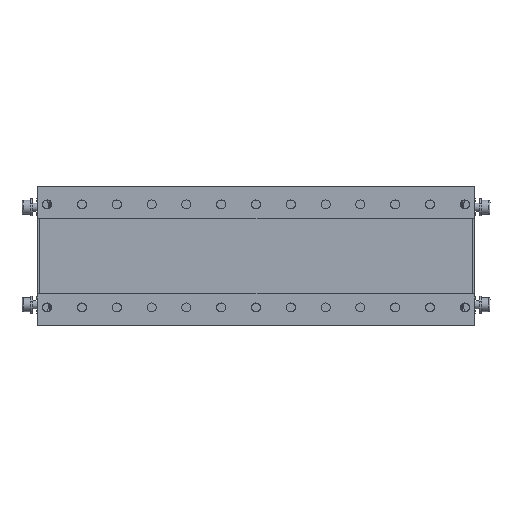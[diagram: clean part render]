
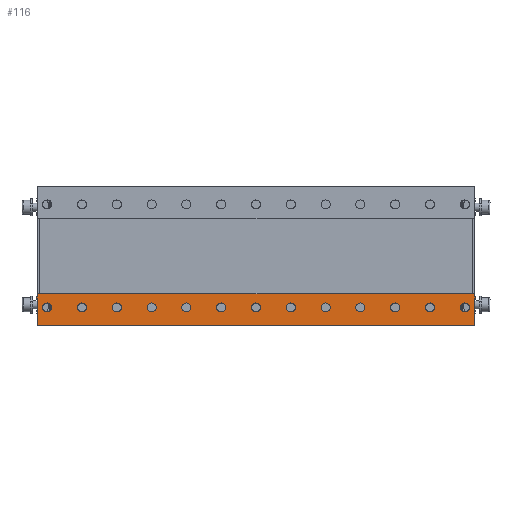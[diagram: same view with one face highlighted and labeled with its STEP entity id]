
A CAD part, top view. The second image highlights one B-rep face of the part: STEP entity #116.
In plain terms, the highlighted planar face has unit normal (0, 0, 1).
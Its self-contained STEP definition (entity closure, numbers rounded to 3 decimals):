
#87 = EDGE_CURVE('',#88,#88,#90,.T.);
#88 = VERTEX_POINT('',#89);
#89 = CARTESIAN_POINT('',(-121.75,-37.,30.));
#90 = CIRCLE('',#91,3.25);
#91 = AXIS2_PLACEMENT_3D('',#92,#93,#94);
#92 = CARTESIAN_POINT('',(-125.,-37.,30.));
#93 = DIRECTION('',(0.,0.,1.));
#94 = DIRECTION('',(1.,0.,-0.));
#116 = ADVANCED_FACE('',(#117,#167,#178,#189,#200,#211,#222,#233,#244,
    #255,#266,#277,#288,#291),#302,.F.);
#117 = FACE_BOUND('',#118,.F.);
#118 = EDGE_LOOP('',(#119,#129,#137,#145,#153,#161));
#119 = ORIENTED_EDGE('',*,*,#120,.F.);
#120 = EDGE_CURVE('',#121,#123,#125,.T.);
#121 = VERTEX_POINT('',#122);
#122 = CARTESIAN_POINT('',(157.,-50.,30.));
#123 = VERTEX_POINT('',#124);
#124 = CARTESIAN_POINT('',(157.,-28.,30.));
#125 = LINE('',#126,#127);
#126 = CARTESIAN_POINT('',(157.,-50.,30.));
#127 = VECTOR('',#128,1.);
#128 = DIRECTION('',(0.,1.,0.));
#129 = ORIENTED_EDGE('',*,*,#130,.T.);
#130 = EDGE_CURVE('',#121,#131,#133,.T.);
#131 = VERTEX_POINT('',#132);
#132 = CARTESIAN_POINT('',(-157.,-50.,30.));
#133 = LINE('',#134,#135);
#134 = CARTESIAN_POINT('',(0.,-50.,30.));
#135 = VECTOR('',#136,1.);
#136 = DIRECTION('',(-1.,0.,0.));
#137 = ORIENTED_EDGE('',*,*,#138,.F.);
#138 = EDGE_CURVE('',#139,#131,#141,.T.);
#139 = VERTEX_POINT('',#140);
#140 = CARTESIAN_POINT('',(-157.,-28.,30.));
#141 = LINE('',#142,#143);
#142 = CARTESIAN_POINT('',(-157.,-28.,30.));
#143 = VECTOR('',#144,1.);
#144 = DIRECTION('',(0.,-1.,0.));
#145 = ORIENTED_EDGE('',*,*,#146,.F.);
#146 = EDGE_CURVE('',#147,#139,#149,.T.);
#147 = VERTEX_POINT('',#148);
#148 = CARTESIAN_POINT('',(-156.,-27.,30.));
#149 = LINE('',#150,#151);
#150 = CARTESIAN_POINT('',(-157.,-28.,30.));
#151 = VECTOR('',#152,1.);
#152 = DIRECTION('',(-0.707,-0.707,-0.));
#153 = ORIENTED_EDGE('',*,*,#154,.F.);
#154 = EDGE_CURVE('',#155,#147,#157,.T.);
#155 = VERTEX_POINT('',#156);
#156 = CARTESIAN_POINT('',(156.,-27.,30.));
#157 = LINE('',#158,#159);
#158 = CARTESIAN_POINT('',(0.,-27.,30.));
#159 = VECTOR('',#160,1.);
#160 = DIRECTION('',(-1.,0.,0.));
#161 = ORIENTED_EDGE('',*,*,#162,.F.);
#162 = EDGE_CURVE('',#123,#155,#163,.T.);
#163 = LINE('',#164,#165);
#164 = CARTESIAN_POINT('',(156.,-27.,30.));
#165 = VECTOR('',#166,1.);
#166 = DIRECTION('',(-0.707,0.707,-0.));
#167 = FACE_BOUND('',#168,.F.);
#168 = EDGE_LOOP('',(#169));
#169 = ORIENTED_EDGE('',*,*,#170,.F.);
#170 = EDGE_CURVE('',#171,#171,#173,.T.);
#171 = VERTEX_POINT('',#172);
#172 = CARTESIAN_POINT('',(153.25,-37.,30.));
#173 = CIRCLE('',#174,3.25);
#174 = AXIS2_PLACEMENT_3D('',#175,#176,#177);
#175 = CARTESIAN_POINT('',(150.,-37.,30.));
#176 = DIRECTION('',(-0.,0.,-1.));
#177 = DIRECTION('',(1.,0.,-0.));
#178 = FACE_BOUND('',#179,.F.);
#179 = EDGE_LOOP('',(#180));
#180 = ORIENTED_EDGE('',*,*,#181,.F.);
#181 = EDGE_CURVE('',#182,#182,#184,.T.);
#182 = VERTEX_POINT('',#183);
#183 = CARTESIAN_POINT('',(128.25,-37.,30.));
#184 = CIRCLE('',#185,3.25);
#185 = AXIS2_PLACEMENT_3D('',#186,#187,#188);
#186 = CARTESIAN_POINT('',(125.,-37.,30.));
#187 = DIRECTION('',(0.,0.,-1.));
#188 = DIRECTION('',(1.,0.,0.));
#189 = FACE_BOUND('',#190,.F.);
#190 = EDGE_LOOP('',(#191));
#191 = ORIENTED_EDGE('',*,*,#192,.F.);
#192 = EDGE_CURVE('',#193,#193,#195,.T.);
#193 = VERTEX_POINT('',#194);
#194 = CARTESIAN_POINT('',(103.25,-37.,30.));
#195 = CIRCLE('',#196,3.25);
#196 = AXIS2_PLACEMENT_3D('',#197,#198,#199);
#197 = CARTESIAN_POINT('',(100.,-37.,30.));
#198 = DIRECTION('',(0.,0.,-1.));
#199 = DIRECTION('',(1.,0.,0.));
#200 = FACE_BOUND('',#201,.F.);
#201 = EDGE_LOOP('',(#202));
#202 = ORIENTED_EDGE('',*,*,#203,.F.);
#203 = EDGE_CURVE('',#204,#204,#206,.T.);
#204 = VERTEX_POINT('',#205);
#205 = CARTESIAN_POINT('',(78.25,-37.,30.));
#206 = CIRCLE('',#207,3.25);
#207 = AXIS2_PLACEMENT_3D('',#208,#209,#210);
#208 = CARTESIAN_POINT('',(75.,-37.,30.));
#209 = DIRECTION('',(0.,0.,-1.));
#210 = DIRECTION('',(1.,0.,0.));
#211 = FACE_BOUND('',#212,.F.);
#212 = EDGE_LOOP('',(#213));
#213 = ORIENTED_EDGE('',*,*,#214,.F.);
#214 = EDGE_CURVE('',#215,#215,#217,.T.);
#215 = VERTEX_POINT('',#216);
#216 = CARTESIAN_POINT('',(53.25,-37.,30.));
#217 = CIRCLE('',#218,3.25);
#218 = AXIS2_PLACEMENT_3D('',#219,#220,#221);
#219 = CARTESIAN_POINT('',(50.,-37.,30.));
#220 = DIRECTION('',(0.,0.,-1.));
#221 = DIRECTION('',(1.,0.,0.));
#222 = FACE_BOUND('',#223,.F.);
#223 = EDGE_LOOP('',(#224));
#224 = ORIENTED_EDGE('',*,*,#225,.F.);
#225 = EDGE_CURVE('',#226,#226,#228,.T.);
#226 = VERTEX_POINT('',#227);
#227 = CARTESIAN_POINT('',(28.25,-37.,30.));
#228 = CIRCLE('',#229,3.25);
#229 = AXIS2_PLACEMENT_3D('',#230,#231,#232);
#230 = CARTESIAN_POINT('',(25.,-37.,30.));
#231 = DIRECTION('',(0.,0.,-1.));
#232 = DIRECTION('',(1.,0.,0.));
#233 = FACE_BOUND('',#234,.F.);
#234 = EDGE_LOOP('',(#235));
#235 = ORIENTED_EDGE('',*,*,#236,.F.);
#236 = EDGE_CURVE('',#237,#237,#239,.T.);
#237 = VERTEX_POINT('',#238);
#238 = CARTESIAN_POINT('',(3.25,-37.,30.));
#239 = CIRCLE('',#240,3.25);
#240 = AXIS2_PLACEMENT_3D('',#241,#242,#243);
#241 = CARTESIAN_POINT('',(0.,-37.,30.));
#242 = DIRECTION('',(0.,0.,-1.));
#243 = DIRECTION('',(1.,0.,0.));
#244 = FACE_BOUND('',#245,.F.);
#245 = EDGE_LOOP('',(#246));
#246 = ORIENTED_EDGE('',*,*,#247,.F.);
#247 = EDGE_CURVE('',#248,#248,#250,.T.);
#248 = VERTEX_POINT('',#249);
#249 = CARTESIAN_POINT('',(-21.75,-37.,30.));
#250 = CIRCLE('',#251,3.25);
#251 = AXIS2_PLACEMENT_3D('',#252,#253,#254);
#252 = CARTESIAN_POINT('',(-25.,-37.,30.));
#253 = DIRECTION('',(0.,0.,-1.));
#254 = DIRECTION('',(1.,0.,0.));
#255 = FACE_BOUND('',#256,.F.);
#256 = EDGE_LOOP('',(#257));
#257 = ORIENTED_EDGE('',*,*,#258,.F.);
#258 = EDGE_CURVE('',#259,#259,#261,.T.);
#259 = VERTEX_POINT('',#260);
#260 = CARTESIAN_POINT('',(-46.75,-37.,30.));
#261 = CIRCLE('',#262,3.25);
#262 = AXIS2_PLACEMENT_3D('',#263,#264,#265);
#263 = CARTESIAN_POINT('',(-50.,-37.,30.));
#264 = DIRECTION('',(0.,0.,-1.));
#265 = DIRECTION('',(1.,0.,0.));
#266 = FACE_BOUND('',#267,.F.);
#267 = EDGE_LOOP('',(#268));
#268 = ORIENTED_EDGE('',*,*,#269,.F.);
#269 = EDGE_CURVE('',#270,#270,#272,.T.);
#270 = VERTEX_POINT('',#271);
#271 = CARTESIAN_POINT('',(-71.75,-37.,30.));
#272 = CIRCLE('',#273,3.25);
#273 = AXIS2_PLACEMENT_3D('',#274,#275,#276);
#274 = CARTESIAN_POINT('',(-75.,-37.,30.));
#275 = DIRECTION('',(0.,0.,-1.));
#276 = DIRECTION('',(1.,0.,0.));
#277 = FACE_BOUND('',#278,.F.);
#278 = EDGE_LOOP('',(#279));
#279 = ORIENTED_EDGE('',*,*,#280,.F.);
#280 = EDGE_CURVE('',#281,#281,#283,.T.);
#281 = VERTEX_POINT('',#282);
#282 = CARTESIAN_POINT('',(-96.75,-37.,30.));
#283 = CIRCLE('',#284,3.25);
#284 = AXIS2_PLACEMENT_3D('',#285,#286,#287);
#285 = CARTESIAN_POINT('',(-100.,-37.,30.));
#286 = DIRECTION('',(0.,0.,-1.));
#287 = DIRECTION('',(1.,0.,0.));
#288 = FACE_BOUND('',#289,.F.);
#289 = EDGE_LOOP('',(#290));
#290 = ORIENTED_EDGE('',*,*,#87,.T.);
#291 = FACE_BOUND('',#292,.F.);
#292 = EDGE_LOOP('',(#293));
#293 = ORIENTED_EDGE('',*,*,#294,.F.);
#294 = EDGE_CURVE('',#295,#295,#297,.T.);
#295 = VERTEX_POINT('',#296);
#296 = CARTESIAN_POINT('',(-146.75,-37.,30.));
#297 = CIRCLE('',#298,3.25);
#298 = AXIS2_PLACEMENT_3D('',#299,#300,#301);
#299 = CARTESIAN_POINT('',(-150.,-37.,30.));
#300 = DIRECTION('',(-0.,0.,-1.));
#301 = DIRECTION('',(1.,0.,-0.));
#302 = PLANE('',#303);
#303 = AXIS2_PLACEMENT_3D('',#304,#305,#306);
#304 = CARTESIAN_POINT('',(0.,0.,30.));
#305 = DIRECTION('',(0.,0.,-1.));
#306 = DIRECTION('',(-1.,0.,0.));
